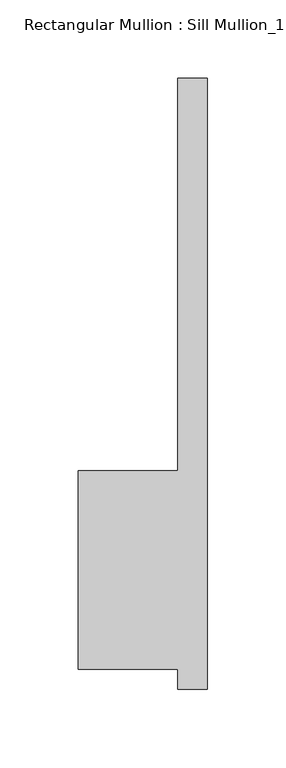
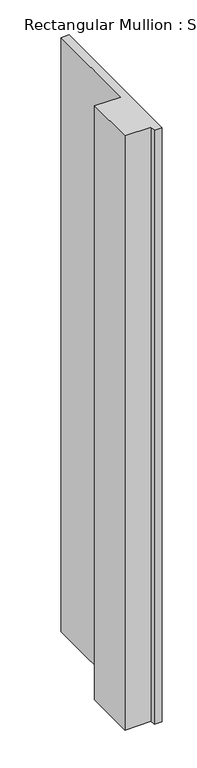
"""IFC4 building model written with IfcOpenShell, lengths in millimetres: member geometry."""

from ifc_helpers import new_model, si_unit, frame, origin, place, context, project, spatial, polyline, outline, extrude, source, transform, mapped, element, save


def member_6566524c(model_context):
    return source(origin(), model_context, "Body", "SweptSolid", [
        extrude(outline(polyline([(-82.55, 50.8), (-19.05, 50.8), (-19.05, 301.625), (0.0, 301.625), (0.0, -88.9), (-19.05, -88.9), (-19.05, -76.2), (-82.55, -76.2), (-82.55, 50.8)])), frame((0.0, 0.0, -1517.65), z_axis=(0.0, 0.0, 1.0), x_axis=(1.0, 0.0, 0.0)), (0.0, 0.0, 1.0), 1517.65),
    ])


if __name__ == "__main__":
    model = new_model("IFC4")
    model_context = context("Model", 3, world=origin())
    ifc_project = project(units=[si_unit("LENGTHUNIT", "METRE", prefix="MILLI")], contexts=[model_context])
    site = spatial("IfcSite", under=ifc_project)
    building = spatial("IfcBuilding", under=site)
    placement = place(None, origin())
    member_shape = member_6566524c(model_context)
    element("IfcMember", 1, ObjectType="Rectangular Mullion : Sill Mullion_15\" thick wall", at=placement, inside=building, context=model_context, shape_type="MappedRepresentation", body=[
        mapped(member_shape, transform((0.0, 0.0, 0.0), x_axis=(1.0, 0.0, 0.0), y_axis=(0.0, 1.0, 0.0), z_axis=(0.0, 0.0, 1.0))),
    ])
    save(model, "model.ifc")
